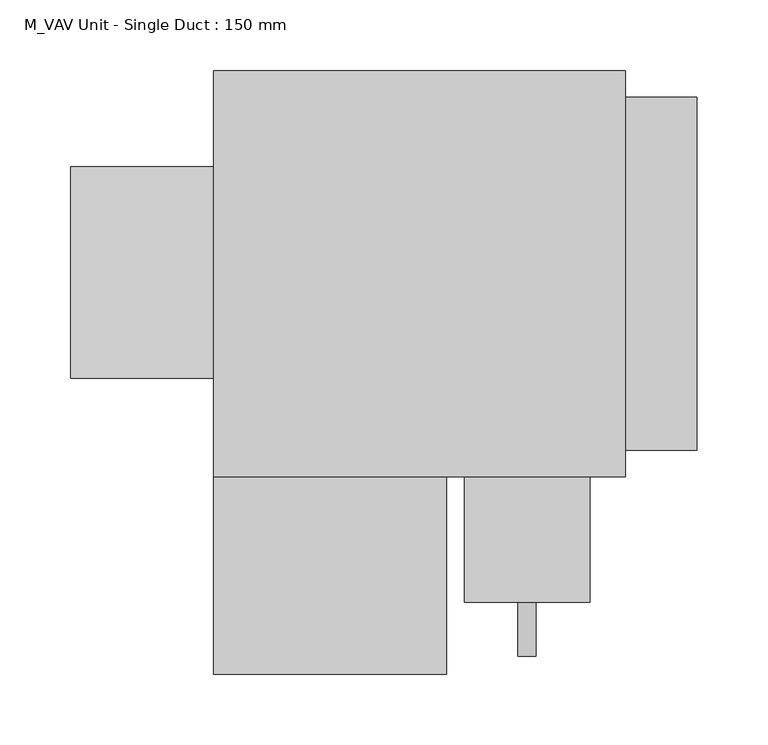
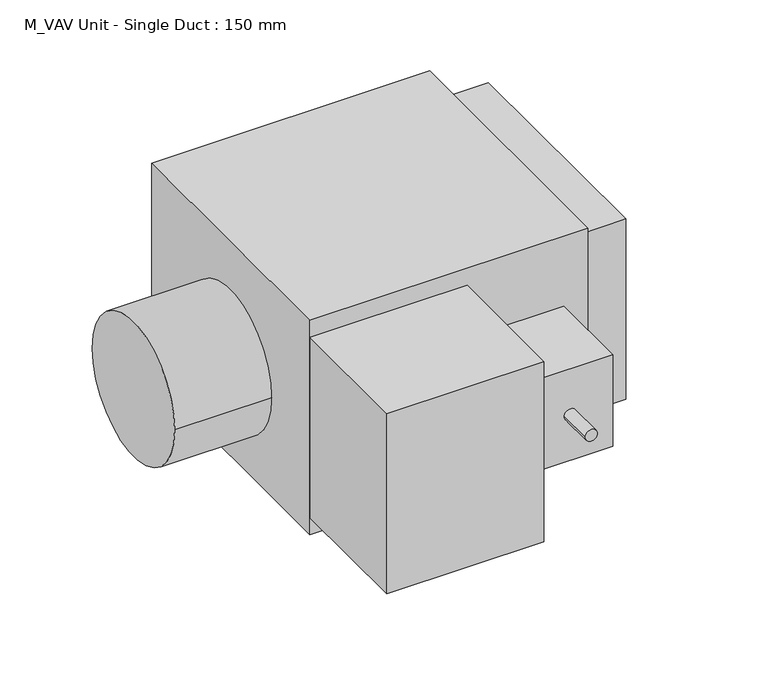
"""IFC4 building model written with IfcOpenShell, lengths in millimetres: proxy geometry, M_VAV Unit - Single Duct : 150 mm."""

from ifc_helpers import new_model, si_unit, frame, origin, origin_with_axes, place, context, project, spatial, polyline, circle_curve, outline, extrude, faceted_brep, source, transform, mapped, element, save
from ifc_brep_helpers import plane_surface, cylinder_surface, advanced_brep


def m_vav_unit_single_duct_150_mm_ffdab17b(model_context):
    return source(origin(), model_context, "Body", "SolidModel", [
        advanced_brep(
        [(266.7, -232.95, 160.325), (177.8, -232.95, 160.325), (177.8, -232.95, 58.725), (266.7, -232.95, 58.725), (228.6, -232.95, 109.525), (215.9, -232.95, 109.525), (266.7, -144.05, 160.325), (266.7, -144.05, 58.725), (177.8, -144.05, 58.725), (177.8, -144.05, 160.325), (215.9, -271.05, 109.525), (228.6, -271.05, 109.525)],
        [
            (0, 1),
            (1, 2),
            (2, 3),
            (3, 0),
            (4, 5, circle_curve(frame((222.25, -232.95, 109.525), z_axis=(0.0, 1.0, 0.0), x_axis=(1.0, 0.0, 0.0)), 6.35)),
            (5, 4, circle_curve(frame((222.25, -232.95, 109.525), z_axis=(0.0, 1.0, 0.0), x_axis=(1.0, 0.0, 0.0)), 6.35)),
            (6, 7),
            (7, 8),
            (8, 9),
            (9, 6),
            (0, 6),
            (9, 1),
            (8, 2),
            (7, 3),
            (10, 11, circle_curve(frame((222.25, -271.05, 109.525), z_axis=(0.0, -1.0, 0.0), x_axis=(1.0, 0.0, 0.0)), 6.35)),
            (11, 10, circle_curve(frame((222.25, -271.05, 109.525), z_axis=(0.0, -1.0, 0.0), x_axis=(1.0, 0.0, 0.0)), 6.35)),
            (10, 5),
            (4, 11),
        ],
        [
            plane_surface(frame((177.8, -232.95, 160.325), z_axis=(0.0, -1.0, 0.0), x_axis=(-1.0, 0.0, 0.0))),
            plane_surface(frame((177.8, -144.05, 160.325), z_axis=(0.0, 1.0, 0.0), x_axis=(1.0, 0.0, 0.0))),
            plane_surface(frame((266.7, -232.95, 160.325), z_axis=(0.0, 0.0, 1.0), x_axis=(0.0, 1.0, 0.0))),
            plane_surface(frame((177.8, -232.95, 160.325), z_axis=(-1.0, 0.0, 0.0), x_axis=(0.0, 1.0, 0.0))),
            plane_surface(frame((177.8, -232.95, 58.725), z_axis=(0.0, 0.0, -1.0), x_axis=(0.0, 1.0, 0.0))),
            plane_surface(frame((266.7, -232.95, 58.725), z_axis=(1.0, 0.0, 0.0), x_axis=(0.0, 1.0, 0.0))),
            plane_surface(frame((228.6, -271.05, 109.525), z_axis=(0.0, -1.0, 0.0), x_axis=(0.0, 0.0, 1.0))),
            cylinder_surface(frame((222.25, -144.05, 109.525), z_axis=(0.0, -1.0, 0.0), x_axis=(1.0, 0.0, 0.0)), 6.35),
        ],
        [
            (0, [[1, 2, 3, 4], [5, 6]]),
            (1, [[7, 8, 9, 10]]),
            (2, [[-1, 11, -10, 12]]),
            (3, [[-2, -12, -9, 13]]),
            (4, [[-3, -13, -8, 14]]),
            (5, [[-4, -14, -7, -11]]),
            (6, [[15, 16]]),
            (7, [[-15, 17, -5, 18]]),
            (7, [[-16, -18, -6, -17]]),
        ],
    ),
        faceted_brep([(342.8, 125.0, 219.05), (342.8, -125.0, 219.05), (342.8, -125.0, 19.05), (342.8, 125.0, 19.05), (292.0, 125.0, 219.05), (292.0, 125.0, 19.05), (292.0, -125.0, 19.05), (292.0, -125.0, 219.05)], [[[0, 1, 2, 3]], [[4, 5, 6, 7]], [[1, 0, 4, 7]], [[2, 1, 7, 6]], [[3, 2, 6, 5]], [[0, 3, 5, 4]]]),
        advanced_brep(
        [(0.0, -74.15, 109.525), (0.0, 75.85, 109.525), (-101.6, -74.15, 109.525), (-101.6, 75.85, 109.525)],
        [
            (0, 1, circle_curve(frame((0.0, 0.85, 109.525), z_axis=(1.0, 0.0, 0.0), x_axis=(0.0, 1.0, 0.0)), 75.0)),
            (1, 0, circle_curve(frame((0.0, 0.85, 109.525), z_axis=(1.0, 0.0, 0.0), x_axis=(0.0, 1.0, 0.0)), 75.0)),
            (2, 3, circle_curve(frame((-101.6, 0.85, 109.525), z_axis=(-1.0, 0.0, 0.0), x_axis=(0.0, 1.0, 0.0)), 75.0)),
            (3, 2, circle_curve(frame((-101.6, 0.85, 109.525), z_axis=(-1.0, 0.0, 0.0), x_axis=(0.0, 1.0, 0.0)), 75.0)),
            (0, 2),
            (3, 1),
        ],
        [
            plane_surface(frame((0.0, 75.85, 109.525), z_axis=(1.0, 0.0, 0.0), x_axis=(0.0, 0.0, 1.0))),
            plane_surface(frame((-101.6, 75.85, 109.525), z_axis=(-1.0, 0.0, 0.0), x_axis=(0.0, 0.0, -1.0))),
            cylinder_surface(frame((-101.6, 0.85, 109.525), z_axis=(1.0, 0.0, 0.0), x_axis=(0.0, 1.0, 0.0)), 75.0),
        ],
        [
            (0, [[1, 2]]),
            (1, [[3, 4]]),
            (2, [[-1, 5, -4, 6]]),
            (2, [[-2, -6, -3, -5]]),
        ],
    ),
        extrude(outline(polyline([(165.1, -283.75), (0.0, -283.75), (0.0, -144.05), (165.1, -144.05), (165.1, -283.75)])), frame((0.0, 0.0, 19.05), z_axis=(0.0, 0.0, 1.0), x_axis=(1.0, 0.0, 0.0)), (0.0, 0.0, 1.0), 200.0),
        extrude(outline(polyline([(292.0, 144.05), (292.0, -144.05), (0.0, -144.05), (0.0, 144.05), (292.0, 144.05)])), origin_with_axes(), (0.0, 0.0, 1.0), 238.1),
    ])


if __name__ == "__main__":
    model = new_model("IFC4")
    model_context = context("Model", 3, world=origin())
    ifc_project = project(units=[si_unit("LENGTHUNIT", "METRE", prefix="MILLI")], contexts=[model_context])
    site = spatial("IfcSite", under=ifc_project)
    building = spatial("IfcBuilding", under=site)
    placement = place(None, origin())
    m_vav_unit_single_duct_150_mm_shape = m_vav_unit_single_duct_150_mm_ffdab17b(model_context)
    element("IfcBuildingElementProxy", 1, Name="M_VAV Unit - Single Duct : 150 mm", ObjectType="M_VAV Unit - Single Duct : 150 mm", at=placement, inside=building, context=model_context, shape_type="MappedRepresentation", body=[
        mapped(m_vav_unit_single_duct_150_mm_shape, transform((0.0, 0.0, 0.0), x_axis=(1.0, 0.0, 0.0), y_axis=(0.0, 1.0, 0.0), z_axis=(0.0, 0.0, 1.0))),
    ])
    save(model, "model.ifc")
